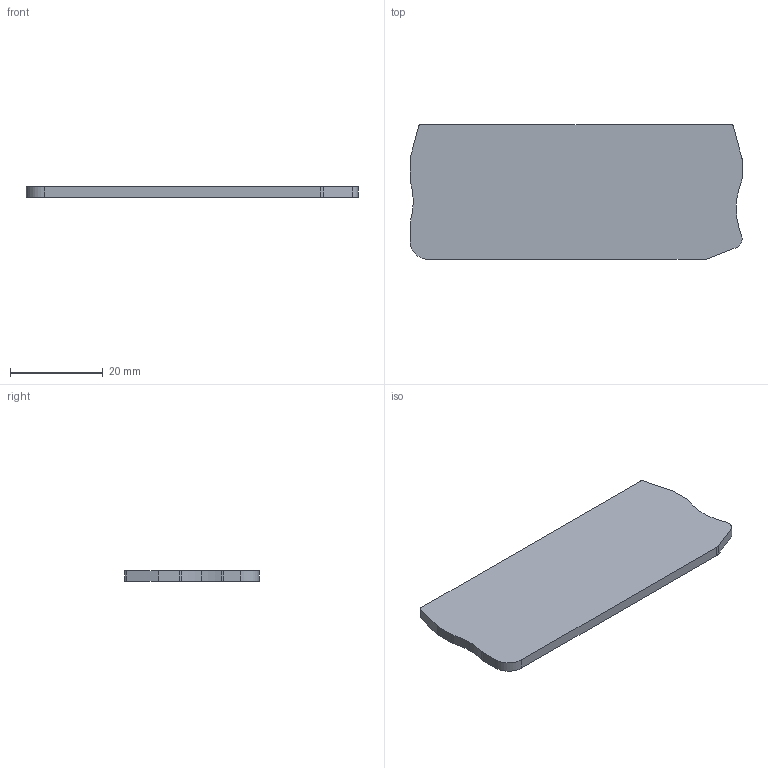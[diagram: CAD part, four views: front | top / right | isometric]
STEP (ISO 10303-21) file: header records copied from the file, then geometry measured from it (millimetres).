
FILE_DESCRIPTION(('SolidDesigner STEP Export'),'2;1');
FILE_NAME('3030491_d_st4twin.stp','2004-02-04T 7:24:24',(''),(''),'OneSpaceDesigner STEP processor Version: 9.0 (March 2001)for AP214(CD)(Solid Model)','CoCreate OneSpaceDesigner: 11.50A 18-Jul-2002(C) CoCreate Software GmbH','');
FILE_SCHEMA(('AUTOMOTIVE_DESIGN_CC2 {1 2 10303 214 -1 1 5 1}'));
Length unit declared in the file: millimetre
Products named in the file (2): d-st_4-twin-select
Assembly tree (1 placements, depth 2):
  d-st_4-twin-select
    d-st_4-twin-select
Bounding box: 71.5 x 29.05 x 2.2 mm (x, y, z)
Volume: 4472.4 mm3; surface area: 4491.3 mm2
Topology: 1 solids, 1 shells, 26 faces, 72 edges, 48 vertices
Faces by surface type: cylinder 15, plane 11
Entity records: 1069 total; most frequent: DIRECTION 146, ORIENTED_EDGE 144, CARTESIAN_POINT 142, EDGE_CURVE 72, AXIS2_PLACEMENT_3D 52, VERTEX_POINT 48, VECTOR 42, LINE 42
